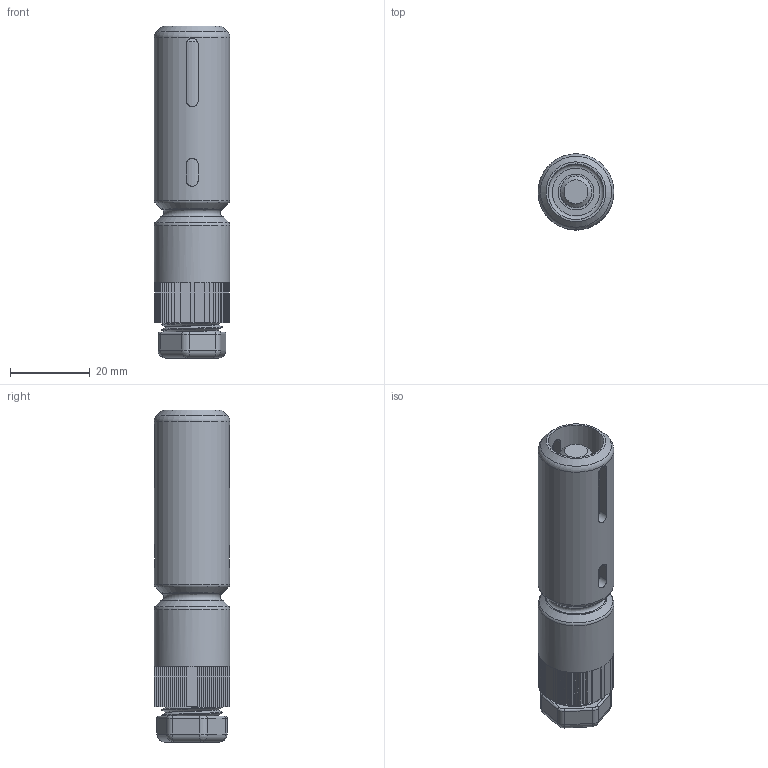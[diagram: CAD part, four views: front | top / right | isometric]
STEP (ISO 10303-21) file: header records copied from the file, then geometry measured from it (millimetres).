
FILE_DESCRIPTION(/* description */ ('Unknown'),/* implementation_level */ '2;1');
FILE_NAME(/* name */ 'Sonda 2 - 3 versione',/* time_stamp */ '2023-01-10T11:30:56+01:00',/* author */ ('Unknown'),/* organization */ ('Unknown'),/* preprocessor_version */ 'ST-DEVELOPER v18.102',/* originating_system */ 'Solid Edge',/* authorisation */ 'Unknown');
FILE_SCHEMA (('AUTOMOTIVE_DESIGN {1 0 10303 214 3 1 1}'));
Length unit declared in the file: millimetre
Products named in the file (1): Sonda 2 - 3 versione
Bounding box: 19 x 19 x 83.32 mm (x, y, z)
Surface area: 11275 mm2 (no closed solid volume)
Topology: 0 solids, 12 shells, 291 faces, 718 edges, 438 vertices
Faces by surface type: plane 221, cylinder 38, torus 15, sphere 6, bspline 6, cone 5
Full cylindrical faces by diameter (mm): 3 x2, 3.2 x1, 3.5 x1, 4.47 x1, 7.97 x1, 9 x1, 13.108 x1, 13.97 x1, 15.2 x1, 19 x2
Entity records: 16578 total; most frequent: CARTESIAN_POINT 9882, DIRECTION 1326, ORIENTED_EDGE 1293, EDGE_CURVE 684, LINE 456, VECTOR 456, AXIS2_PLACEMENT_3D 435, VERTEX_POINT 430
